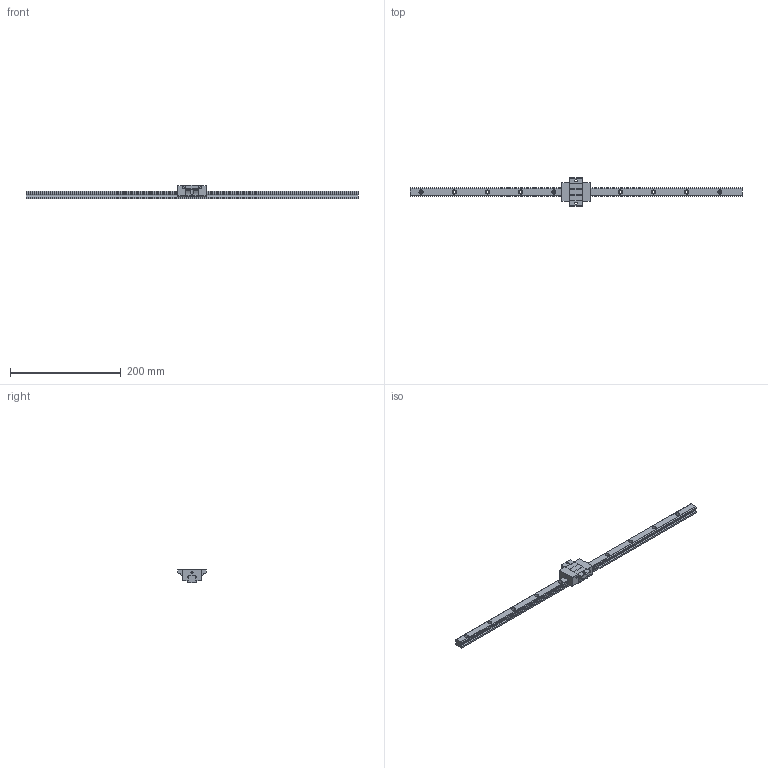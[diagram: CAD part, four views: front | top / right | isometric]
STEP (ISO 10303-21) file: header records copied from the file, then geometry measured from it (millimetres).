
FILE_DESCRIPTION (( 'STEP AP203' ), '1' );
FILE_NAME ('TRS15FS-WW.STEP', '2024-05-21T02:55:02', ( '' ), ( '' ), 'SwSTEP 2.0', 'SolidWorks 2022', '' );
FILE_SCHEMA (( 'CONFIG_CONTROL_DESIGN' ));
Length unit declared in the file: millimetre
Products named in the file (1): TRS15FS-WW
Bounding box: 600 x 52 x 24 mm (x, y, z)
Volume: 132265.9 mm3; surface area: 46320.3 mm2
Topology: 2 solids, 2 shells, 222 faces, 590 edges, 384 vertices
Faces by surface type: cylinder 116, plane 102, sphere 4
Entity records: 7308 total; most frequent: CARTESIAN_POINT 1518, DIRECTION 1226, ORIENTED_EDGE 1172, EDGE_CURVE 586, AXIS2_PLACEMENT_3D 437, VERTEX_POINT 384, VECTOR 352, LINE 352
